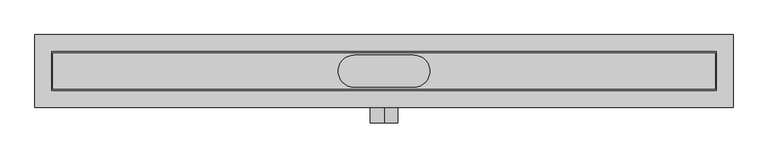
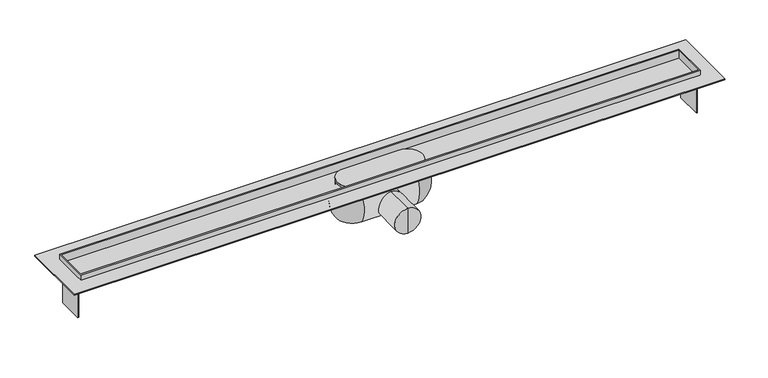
"""IFC4 building model written with IfcOpenShell, lengths in millimetres: sanitary terminal geometry, PF_ST_UN_ShowerDrain C INT_ACO : surrounding flange with horizontal connection."""

import ifcopenshell
import ifcopenshell.guid

model = None  # the IFC model being written
_history = None  # IfcOwnerHistory: only IFC2X3 demands one
_inside = {}  # id of a spatial element -> (the spatial element, [elements in it])
_under = {}  # id of a project, library or spatial element -> (it, [spatial elements below it])
_declared = {}  # id of a project -> (the project, [libraries it declares])
_typed = {}  # id of a type object -> (the type object, [elements of that type])
_made_of = {}  # id of a material, layer set ... -> (it, [elements and type objects made of it])


def new_model(schema):
    """Start an empty IFC model of exactly this schema.

    Asked for "IFC4X3", IfcOpenShell would pick the latest addendum, in which some entities
    have other attributes; the version numbers below select the first issue.
    IFC2X3 requires an IfcOwnerHistory on every rooted entity: one is made here for all.
    """
    global model, _history
    if schema == "IFC4X3":
        model = ifcopenshell.file(schema_version=(4, 3, 0, 0))
    else:
        model = ifcopenshell.file(schema=schema)
    _inside.clear()
    _under.clear()
    _declared.clear()
    _typed.clear()
    _made_of.clear()
    _history = None
    if model.schema == "IFC2X3":
        org = make("IfcOrganization", Name="unknown")
        user = make(
            "IfcPersonAndOrganization",
            ThePerson=make("IfcPerson", FamilyName="unknown"),
            TheOrganization=org,
        )
        app = make(
            "IfcApplication",
            ApplicationDeveloper=org,
            Version="unknown",
            ApplicationFullName="unknown",
            ApplicationIdentifier="unknown",
        )
        _history = make(
            "IfcOwnerHistory",
            OwningUser=user,
            OwningApplication=app,
            ChangeAction="ADDED",
            CreationDate=0,
        )
    return model


def make(cls, **values):
    """One entity of the class cls with the attributes given. An attribute that is None is left unset."""
    return model.create_entity(
        cls, **{name: value for name, value in values.items() if value is not None}
    )


def rooted(cls, **values):
    """An entity with a GlobalId (a new one), such as an element, a storey or a relation."""
    return make(cls, GlobalId=ifcopenshell.guid.new(), OwnerHistory=_history, **values)


def si_unit(unit_type, name, prefix=None):
    """IfcSIUnit, for example si_unit("LENGTHUNIT", "METRE", prefix="MILLI")."""
    return make("IfcSIUnit", UnitType=unit_type, Prefix=prefix, Name=name)


def assignment(units):
    """IfcUnitAssignment: the units of a project."""
    return None if units is None else make("IfcUnitAssignment", Units=units)


def point(xyz):
    """IfcCartesianPoint."""
    return None if xyz is None else make("IfcCartesianPoint", Coordinates=xyz)


def direction(xyz):
    """IfcDirection."""
    return None if xyz is None else make("IfcDirection", DirectionRatios=xyz)


def frame(location, z_axis=None, x_axis=None):
    """IfcAxis2Placement3D, a coordinate frame: its origin and axes. An axis left out is left unset."""
    return make(
        "IfcAxis2Placement3D",
        Location=point(location),
        Axis=direction(z_axis),
        RefDirection=direction(x_axis),
    )


def origin():
    """The frame at (0, 0, 0) with its axes left unset."""
    return frame((0.0, 0.0, 0.0))


def origin_with_axes():
    """The frame at (0, 0, 0) with the z axis (0, 0, 1) and the x axis (1, 0, 0) written out."""
    return frame((0.0, 0.0, 0.0), z_axis=(0.0, 0.0, 1.0), x_axis=(1.0, 0.0, 0.0))


def place(relative_to, where):
    """IfcLocalPlacement: puts the frame where relative to a parent placement (None: the world)."""
    return make(
        "IfcLocalPlacement", PlacementRelTo=relative_to, RelativePlacement=where
    )


def context(
    kind, dimensions, precision=None, world=None, true_north=None, identifier=None
):
    """IfcGeometricRepresentationContext, for example the 3D "Model" context."""
    return make(
        "IfcGeometricRepresentationContext",
        ContextIdentifier=identifier,
        ContextType=kind,
        CoordinateSpaceDimension=dimensions,
        Precision=precision,
        WorldCoordinateSystem=world,
        TrueNorth=true_north,
    )


def project(units=None, contexts=None):
    """IfcProject with its units and contexts."""
    return rooted(
        "IfcProject",
        Name="project",
        RepresentationContexts=contexts,
        UnitsInContext=assignment(units),
    )


def spatial(cls, under=None, at=None, **own):
    """A site, building, storey or space (cls), placed at a placement, below another one or the project."""
    s = rooted(cls, ObjectPlacement=at, **own)
    if under is not None:
        _under.setdefault(under.id(), (under, []))[1].append(s)
    return s


def polyline(points):
    """IfcPolyline through the points."""
    return make("IfcPolyline", Points=[point(p) for p in points])


def circle_curve(where, radius):
    """IfcCircle in the frame where."""
    return make("IfcCircle", Position=where, Radius=radius)


def ellipse_curve(where, semi_axis1, semi_axis2):
    """IfcEllipse in the frame where."""
    return make(
        "IfcEllipse", Position=where, SemiAxis1=semi_axis1, SemiAxis2=semi_axis2
    )


def trimmed(basis, trim1, trim2, sense, master):
    """IfcTrimmedCurve: the piece of a basis curve between two trims."""
    return make(
        "IfcTrimmedCurve",
        BasisCurve=basis,
        Trim1=trim1,
        Trim2=trim2,
        SenseAgreement=sense,
        MasterRepresentation=master,
    )


def outline(outer, holes=None, kind="AREA"):
    """IfcArbitraryClosedProfileDef: a profile drawn as a closed curve; with holes, ...WithVoids."""
    if holes is None:
        return make("IfcArbitraryClosedProfileDef", ProfileType=kind, OuterCurve=outer)
    return make(
        "IfcArbitraryProfileDefWithVoids",
        ProfileType=kind,
        OuterCurve=outer,
        InnerCurves=holes,
    )


def extrude(swept, where, along, depth):
    """IfcExtrudedAreaSolid: the profile swept, set in the frame where, extruded along a direction by depth."""
    return make(
        "IfcExtrudedAreaSolid",
        SweptArea=swept,
        Position=where,
        ExtrudedDirection=direction(along),
        Depth=depth,
    )


def faces_of(points, faces, orient=None, outer=None):
    """IfcFace entities. A face is a list of loops; a loop is a list of indices into points, from 0.

    orient and outer hold one flag for each loop. By default every Orientation is true, the
    first loop of a face is its IfcFaceOuterBound and the others are IfcFaceBound.
    """
    made = []
    for i, loops in enumerate(faces):
        bounds = []
        for j, loop in enumerate(loops):
            is_outer = j == 0 if outer is None else outer[i][j]
            bounds.append(
                make(
                    "IfcFaceOuterBound" if is_outer else "IfcFaceBound",
                    Bound=make("IfcPolyLoop", Polygon=[points[k] for k in loop]),
                    Orientation=True if orient is None else orient[i][j],
                )
            )
        made.append(make("IfcFace", Bounds=bounds))
    return made


def faceted_brep(points, faces, orient=None, outer=None, voids=None):
    """IfcFacetedBrep: a solid bounded by flat faces; with voids (closed shells), ...WithVoids."""
    shared = [point(p) for p in points]
    hull = make("IfcClosedShell", CfsFaces=faces_of(shared, faces, orient, outer))
    if voids is None:
        return make("IfcFacetedBrep", Outer=hull)
    return make(
        "IfcFacetedBrepWithVoids",
        Outer=hull,
        Voids=[
            make(cls, CfsFaces=faces_of(shared, fs, o, b)) for cls, fs, o, b in voids
        ],
    )


def shape(context_of_items, identifier, shape_type, items):
    """IfcShapeRepresentation: the items that make up one representation, for example the "Body"."""
    return make(
        "IfcShapeRepresentation",
        ContextOfItems=context_of_items,
        RepresentationIdentifier=identifier,
        RepresentationType=shape_type,
        Items=items,
    )


def source(mapping_origin, context_of_items, identifier, shape_type, items):
    """IfcRepresentationMap: a shape defined once, which mapped items show again and again."""
    return make(
        "IfcRepresentationMap",
        MappingOrigin=mapping_origin,
        MappedRepresentation=shape(context_of_items, identifier, shape_type, items),
    )


def transform(
    local_origin,
    x_axis=None,
    y_axis=None,
    z_axis=None,
    scale=None,
    scale2=None,
    scale3=None,
    uniform=True,
):
    """IfcCartesianTransformationOperator3D, or its non-uniform kind. x_axis, y_axis, z_axis: its Axis1, 2, 3."""
    if uniform:
        return make(
            "IfcCartesianTransformationOperator3D",
            Axis1=direction(x_axis),
            Axis2=direction(y_axis),
            LocalOrigin=point(local_origin),
            Scale=scale,
            Axis3=direction(z_axis),
        )
    return make(
        "IfcCartesianTransformationOperator3DnonUniform",
        Axis1=direction(x_axis),
        Axis2=direction(y_axis),
        LocalOrigin=point(local_origin),
        Scale=scale,
        Axis3=direction(z_axis),
        Scale2=scale2,
        Scale3=scale3,
    )


def mapped(mapping_source, mapping_target):
    """IfcMappedItem: shows the shape of a source again, moved by a transform."""
    return make(
        "IfcMappedItem", MappingSource=mapping_source, MappingTarget=mapping_target
    )


def made_of(thing, what):
    """Note that an element or type object is made of a material, layer set ...; save() writes the relation."""
    if what is not None:
        _made_of.setdefault(what.id(), (what, []))[1].append(thing)
    return thing


def element(
    cls,
    number,
    at=None,
    inside=None,
    cuts=None,
    type_object=None,
    material=None,
    context=None,
    identifier="Body",
    shape_type=None,
    held_by="IfcProductDefinitionShape",
    body=None,
    shapes=None,
    **own,
):
    """One element of the class cls, such as IfcWall. Its Tag is "e" and its number.

    at: its placement. inside: the storey or other place that contains it. cuts: it is an
    opening in that element (IfcRelVoidsElement). A single representation is given by context,
    identifier, shape_type and body (its items); several are given by shapes. held_by: the class
    of the entity that holds the representations. save() writes the other relations.
    """
    e = rooted(cls, Tag="e%d" % number, ObjectPlacement=at, **own)
    if body is not None:
        shapes = [shape(context, identifier, shape_type, body)]
    if shapes is not None:
        e.Representation = make(held_by, Representations=shapes)
    if inside is not None:
        _inside.setdefault(inside.id(), (inside, []))[1].append(e)
    if cuts is not None:
        rooted(
            "IfcRelVoidsElement", RelatingBuildingElement=cuts, RelatedOpeningElement=e
        )
    if type_object is not None:
        _typed.setdefault(type_object.id(), (type_object, []))[1].append(e)
    return made_of(e, material)


def aggregate(whole, parts):
    """IfcRelAggregates: a whole, such as a stair, and the parts it consists of."""
    return rooted("IfcRelAggregates", RelatingObject=whole, RelatedObjects=parts)


def save(model, path):
    """Write the relations noted so far, then the file.

    IfcRelAggregates (storeys below a building ...), IfcRelContainedInSpatialStructure (elements
    in a storey), IfcRelDefinesByType, IfcRelAssociatesMaterial and IfcRelDeclares: one each for
    every whole, place, type object, material and project.
    """
    for whole, parts in _under.values():
        aggregate(whole, parts)
    for where, things in _inside.values():
        rooted(
            "IfcRelContainedInSpatialStructure",
            RelatedElements=things,
            RelatingStructure=where,
        )
    for kind, things in _typed.values():
        rooted("IfcRelDefinesByType", RelatedObjects=things, RelatingType=kind)
    for what, things in _made_of.values():
        rooted("IfcRelAssociatesMaterial", RelatedObjects=things, RelatingMaterial=what)
    for by, libraries in _declared.values():
        rooted("IfcRelDeclares", RelatingContext=by, RelatedDefinitions=libraries)
    model.write(path)


def plane_surface(at):
    """IfcPlane: the flat surface through the origin of the frame at, square to its z axis."""
    return make("IfcPlane", Position=at)


def cylinder_surface(at, radius):
    """IfcCylindricalSurface: all points at the distance radius from the z axis of the frame at."""
    return make("IfcCylindricalSurface", Position=at, Radius=radius)


def revolved_surface(curve, axis_point, axis_direction):
    """IfcSurfaceOfRevolution: the curve turned about the line through axis_point along axis_direction."""
    return make(
        "IfcSurfaceOfRevolution",
        SweptCurve=make("IfcArbitraryOpenProfileDef", ProfileType="CURVE", Curve=curve),
        AxisPosition=make("IfcAxis1Placement", Location=point(axis_point), Axis=direction(axis_direction)),
    )


def advanced_brep(points, edges, surfaces, faces):
    """IfcAdvancedBrep: a solid bounded by faces that lie on surfaces and meet in shared edges.

    An edge is (start, end): straight between two places in points (the first is 0);
    or (start, end, curve); or (start, end, curve, False) where it runs against its curve.
    A face is (place in surfaces, loops), or (place, loops, False) where it looks against
    its surface's normal. A loop lists edges by number (the first is 1), with a minus sign
    where the edge is run from its end to its start. The first loop is the outer one.
    """
    corners = [point(p) for p in points]
    vertices = [make("IfcVertexPoint", VertexGeometry=c) for c in corners]
    made = []
    for start, end, *more in edges:
        made.append(
            make(
                "IfcEdgeCurve",
                EdgeStart=vertices[start],
                EdgeEnd=vertices[end],
                EdgeGeometry=more[0] if more else make("IfcPolyline", Points=[corners[start], corners[end]]),
                SameSense=more[1] if len(more) > 1 else True,
            )
        )
    hull = []
    for where, loops, *sense in faces:
        bounds = []
        for j, loop in enumerate(loops):
            ring = [make("IfcOrientedEdge", EdgeElement=made[abs(k) - 1], Orientation=k > 0) for k in loop]
            bounds.append(
                make(
                    "IfcFaceOuterBound" if j == 0 else "IfcFaceBound",
                    Bound=make("IfcEdgeLoop", EdgeList=ring),
                    Orientation=True,
                )
            )
        hull.append(make("IfcAdvancedFace", Bounds=bounds, FaceSurface=surfaces[where], SameSense=sense[0] if sense else True))
    return make("IfcAdvancedBrep", Outer=make("IfcClosedShell", CfsFaces=hull))


def sanitary_terminal_4959dadb(model_context):
    return source(origin(), model_context, "Body", "SolidModel", [
        advanced_brep(
        [(-52.8420194, -28.757915, 0.0), (-52.8420194, 28.757915, 0.0), (-52.8420194, 28.757915, -11.7509027), (-52.8420194, -28.757915, -11.7509027), (-52.8420194, 20.3622022, -75.4877048), (-52.8420194, -20.3622022, -75.4877048), (-52.8420194, -30.8518848, -71.7143523), (-52.8420194, 30.8518848, -71.7143523), (52.8420194, -28.757915, 0.0), (52.8420194, -28.757915, -11.7509027), (52.8420194, -30.8518848, -71.7143523), (52.8420194, -20.3622022, -75.4877048), (52.8420194, 20.3622022, -75.4877048), (52.8420194, 30.8518848, -71.7143523), (52.8420194, 28.757915, -11.7509027), (52.8420194, 28.757915, 0.0)],
        [
            (0, 1, circle_curve(frame((-52.8420194, 0.0, 0.0), z_axis=(0.0, 0.0, -1.0), x_axis=(0.0, 1.0, 0.0)), 28.757915)),
            (1, 2),
            (2, 3, circle_curve(frame((-52.8420194, 0.0, -11.7509027), z_axis=(0.0, 0.0, 1.0), x_axis=(0.0, 1.0, 0.0)), 28.757915)),
            (3, 0),
            (4, 5, circle_curve(frame((-52.8420194, 0.0, -75.4877048), z_axis=(0.0, 0.0, 1.0), x_axis=(0.0, 1.0, 0.0)), 20.3622022)),
            (5, 6, circle_curve(frame((-52.8420194, -20.3622022, -59.0206997), z_axis=(-1.0, 0.0, 0.0), x_axis=(0.0, 1.0, 0.0)), 16.4670051)),
            (6, 7, circle_curve(frame((-52.8420194, 0.0, -71.7143523), z_axis=(0.0, 0.0, -1.0), x_axis=(0.0, 1.0, 0.0)), 30.8518848)),
            (7, 4, circle_curve(frame((-52.8420194, 20.3622022, -59.0206997), z_axis=(-1.0, 0.0, 0.0), x_axis=(0.0, -1.0, 0.0)), 16.4670051)),
            (2, 7, circle_curve(frame((-52.8420194, -11.2789491, -43.1673071), z_axis=(-1.0, 0.0, 0.0), x_axis=(0.0, -1.0, 0.0)), 50.8914625)),
            (6, 3, circle_curve(frame((-52.8420194, 11.2789491, -43.1673071), z_axis=(-1.0, 0.0, 0.0), x_axis=(0.0, 1.0, 0.0)), 50.8914625)),
            (8, 0),
            (3, 9),
            (9, 8),
            (6, 10),
            (10, 9, circle_curve(frame((52.8420194, 11.2789491, -43.1673071), z_axis=(-1.0, 0.0, 0.0), x_axis=(0.0, 1.0, 0.0)), 50.8914625)),
            (5, 11),
            (11, 10, circle_curve(frame((52.8420194, -20.3622022, -59.0206997), z_axis=(-1.0, 0.0, 0.0), x_axis=(0.0, 1.0, 0.0)), 16.4670051)),
            (4, 12),
            (12, 11, circle_curve(frame((52.8420194, 0.0, -75.4877048), z_axis=(0.0, 0.0, -1.0), x_axis=(0.0, 1.0, 0.0)), 20.3622022)),
            (7, 13),
            (13, 12, circle_curve(frame((52.8420194, 20.3622022, -59.0206997), z_axis=(-1.0, 0.0, 0.0), x_axis=(0.0, -1.0, 0.0)), 16.4670051)),
            (2, 14),
            (14, 13, circle_curve(frame((52.8420194, -11.2789491, -43.1673071), z_axis=(-1.0, 0.0, 0.0), x_axis=(0.0, -1.0, 0.0)), 50.8914625)),
            (1, 15),
            (15, 14),
            (8, 15, circle_curve(frame((52.8420194, 0.0, 0.0), z_axis=(0.0, 0.0, 1.0), x_axis=(0.0, 1.0, 0.0)), 28.757915)),
            (9, 14, circle_curve(frame((52.8420194, 0.0, -11.7509027), z_axis=(0.0, 0.0, 1.0), x_axis=(0.0, 1.0, 0.0)), 28.757915)),
            (10, 13, circle_curve(frame((52.8420194, 0.0, -71.7143523), z_axis=(0.0, 0.0, 1.0), x_axis=(0.0, 1.0, 0.0)), 30.8518848)),
        ],
        [
            cylinder_surface(frame((-52.8420194, 0.0, 20.0), z_axis=(0.0, 0.0, 1.0), x_axis=(0.0, 1.0, 0.0)), 28.757915),
            revolved_surface(trimmed(ellipse_curve(frame((-52.8420194, 20.3622022, -59.0206997), z_axis=(1.0, 0.0, 0.0), x_axis=(0.0, -1.0, 0.0)), 16.4670051, 16.4670051), [point((-52.8420194, 20.3622022, -75.4877048))], [point((-52.8420194, 30.8518848, -71.7143523))], True, "CARTESIAN"), (-52.8420194, 0.0, 20.0), (0.0, 0.0, 1.0)),
            revolved_surface(trimmed(ellipse_curve(frame((-52.8420194, -11.2789491, -43.1673071), z_axis=(1.0, 0.0, 0.0), x_axis=(0.0, -1.0, 0.0)), 50.8914625, 50.8914625), [point((-52.8420194, 30.8518848, -71.7143523))], [point((-52.8420194, 28.757915, -11.7509027))], True, "CARTESIAN"), (-52.8420194, 0.0, 20.0), (0.0, 0.0, 1.0)),
            plane_surface(frame((52.8420194, -28.757915, 0.0), z_axis=(0.0, -1.0, 0.0), x_axis=(-1.0, 0.0, 0.0))),
            cylinder_surface(frame((-52.8420194, 11.2789491, -43.1673071), z_axis=(1.0, 0.0, 0.0), x_axis=(0.0, 1.0, 0.0)), 50.8914625),
            cylinder_surface(frame((-52.8420194, -20.3622022, -59.0206997), z_axis=(1.0, 0.0, 0.0), x_axis=(0.0, 1.0, 0.0)), 16.4670051),
            plane_surface(frame((52.8420194, -20.3622022, -75.4877048), z_axis=(0.0, 0.0, -1.0), x_axis=(-1.0, 0.0, 0.0))),
            cylinder_surface(frame((-52.8420194, 20.3622022, -59.0206997), z_axis=(1.0, 0.0, 0.0), x_axis=(0.0, -1.0, 0.0)), 16.4670051),
            cylinder_surface(frame((-52.8420194, -11.2789491, -43.1673071), z_axis=(1.0, 0.0, 0.0), x_axis=(0.0, -1.0, 0.0)), 50.8914625),
            plane_surface(frame((52.8420194, 28.757915, -11.7509027), z_axis=(0.0, 1.0, 0.0), x_axis=(-1.0, 0.0, 0.0))),
            plane_surface(frame((52.8420194, 28.757915, 0.0), z_axis=(0.0, 0.0, 1.0), x_axis=(-1.0, 0.0, 0.0))),
            cylinder_surface(frame((52.8420194, 0.0, 20.0), z_axis=(0.0, 0.0, 1.0), x_axis=(0.0, 1.0, 0.0)), 28.757915),
            revolved_surface(trimmed(ellipse_curve(frame((52.8420194, -11.2789491, -43.1673071), z_axis=(1.0, 0.0, 0.0), x_axis=(0.0, -1.0, 0.0)), 50.8914625, 50.8914625), [point((52.8420194, 30.8518848, -71.7143523))], [point((52.8420194, 28.757915, -11.7509027))], True, "CARTESIAN"), (52.8420194, 0.0, 20.0), (0.0, 0.0, 1.0)),
            revolved_surface(trimmed(ellipse_curve(frame((52.8420194, 20.3622022, -59.0206997), z_axis=(1.0, 0.0, 0.0), x_axis=(0.0, -1.0, 0.0)), 16.4670051, 16.4670051), [point((52.8420194, 20.3622022, -75.4877048))], [point((52.8420194, 30.8518848, -71.7143523))], True, "CARTESIAN"), (52.8420194, 0.0, 20.0), (0.0, 0.0, 1.0)),
        ],
        [
            (0, [[1, 2, 3, 4]]),
            (1, [[5, 6, 7, 8]]),
            (2, [[-3, 9, -7, 10]]),
            (3, [[11, -4, 12, 13]]),
            (4, [[-12, -10, 14, 15]]),
            (5, [[-14, -6, 16, 17]]),
            (6, [[-16, -5, 18, 19]]),
            (7, [[-18, -8, 20, 21]]),
            (8, [[-20, -9, 22, 23]]),
            (9, [[-22, -2, 24, 25]]),
            (10, [[-11, 26, -24, -1]]),
            (11, [[27, -25, -26, -13]]),
            (12, [[-27, -15, 28, -23]]),
            (13, [[-28, -17, -19, -21]]),
        ],
    ),
        advanced_brep(
        [(0.0, -92.5, -50.4496), (0.0, -92.5, -25.404795), (0.0, -92.5, -75.494405), (0.0, -23.2223331, -75.494405), (0.0, -23.2223331, -25.404795), (0.0, -23.2223331, -50.4496)],
        [
            (0, 1),
            (1, 2, circle_curve(frame((0.0, -92.5, -50.4496), z_axis=(0.0, -1.0, 0.0), x_axis=(0.0, 0.0, 1.0)), 25.044805)),
            (2, 0),
            (2, 1, circle_curve(frame((0.0, -92.5, -50.4496), z_axis=(0.0, -1.0, 0.0), x_axis=(0.0, 0.0, 1.0)), 25.044805)),
            (3, 4, circle_curve(frame((0.0, -23.2223331, -50.4496), z_axis=(0.0, 1.0, 0.0), x_axis=(0.0, 0.0, 1.0)), 25.044805)),
            (4, 5),
            (5, 3),
            (4, 3, circle_curve(frame((0.0, -23.2223331, -50.4496), z_axis=(0.0, 1.0, 0.0), x_axis=(0.0, 0.0, 1.0)), 25.044805)),
            (1, 4),
            (3, 2),
        ],
        [
            plane_surface(frame((0.0, -92.5, -50.4496), z_axis=(0.0, -1.0, 0.0), x_axis=(0.0, 0.0, 1.0))),
            plane_surface(frame((0.0, -23.2223331, -50.4496), z_axis=(0.0, 1.0, 0.0), x_axis=(0.0, 0.0, 1.0))),
            cylinder_surface(frame((0.0, -92.5, -50.4496), z_axis=(0.0, -1.0, 0.0), x_axis=(0.0, 0.0, 1.0)), 25.044805),
        ],
        [
            (0, [[1, 2, 3]]),
            (0, [[-3, 4, -1]]),
            (1, [[5, 6, 7]]),
            (1, [[8, -7, -6]]),
            (2, [[-2, 9, -5, 10]]),
            (2, [[-4, -10, -8, -9]]),
        ],
    ),
        faceted_brep([(592.5, 35.0, 12.0), (-592.5, 35.0, 12.0), (-592.5, -35.0, 12.0), (592.5, -35.0, 12.0), (-590.5, 32.0, 12.0), (590.5, 32.0, 12.0), (590.5, -32.0, 12.0), (-590.5, -32.0, 12.0), (592.5, -35.0, -6.0), (-592.5, -35.0, -6.0), (-592.5, -25.0, -6.0), (-590.5, -25.0, -6.0), (-590.5, 25.0, -6.0), (-592.5, 25.0, -6.0), (-592.5, 35.0, -6.0), (592.5, 35.0, -6.0), (592.5, 25.0, -6.0), (590.5, 25.0, -6.0), (590.5, -25.0, -6.0), (592.5, -25.0, -6.0), (-592.5, 25.0, -80.0), (-592.5, -25.0, -80.0), (592.5, -25.0, -80.0), (592.5, 25.0, -80.0), (590.5, 32.0, -4.0), (-590.5, 32.0, -4.0), (-590.5, -32.0, -4.0), (590.5, -32.0, -4.0), (590.5, -25.0, -80.0), (-590.5, -25.0, -80.0), (-590.5, 25.0, -80.0), (590.5, 25.0, -80.0)], [[[0, 1, 2, 3], [4, 5, 6, 7]], [[8, 9, 10, 11, 12, 13, 14, 15, 16, 17, 18, 19]], [[1, 0, 15, 14]], [[2, 1, 14, 13, 20, 21, 10, 9]], [[3, 2, 9, 8]], [[0, 3, 8, 19, 22, 23, 16, 15]], [[24, 25, 26, 27]], [[25, 24, 5, 4]], [[26, 25, 4, 7]], [[27, 26, 7, 6]], [[24, 27, 6, 5]], [[22, 19, 18, 28]], [[21, 29, 11, 10]], [[20, 13, 12, 30]], [[23, 31, 17, 16]], [[29, 21, 20, 30]], [[11, 29, 30, 12]], [[28, 18, 17, 31]], [[22, 28, 31, 23]]]),
        extrude(outline(polyline([(622.5, 65.0), (622.5, -65.0), (-622.5, -65.0), (-622.5, 65.0), (622.5, 65.0)]), holes=[polyline([(590.5, 32.0), (-590.5, 32.0), (-590.5, -32.0), (590.5, -32.0), (590.5, 32.0)])]), origin_with_axes(), (0.0, 0.0, 1.0), 2.0),
    ])


if __name__ == "__main__":
    model = new_model("IFC4")
    model_context = context("Model", 3, world=origin())
    ifc_project = project(units=[si_unit("LENGTHUNIT", "METRE", prefix="MILLI")], contexts=[model_context])
    site = spatial("IfcSite", under=ifc_project)
    building = spatial("IfcBuilding", under=site)
    placement = place(None, origin())
    sanitary_terminal_shape = sanitary_terminal_4959dadb(model_context)
    element("IfcSanitaryTerminal", 1, ObjectType="PF_ST_UN_ShowerDrain C INT_ACO : surrounding flange with horizontal connection", at=placement, inside=building, context=model_context, shape_type="MappedRepresentation", body=[
        mapped(sanitary_terminal_shape, transform((0.0, 0.0, 0.0), x_axis=(1.0, 0.0, 0.0), y_axis=(0.0, 1.0, 0.0), z_axis=(0.0, 0.0, 1.0))),
    ])
    save(model, "model.ifc")
